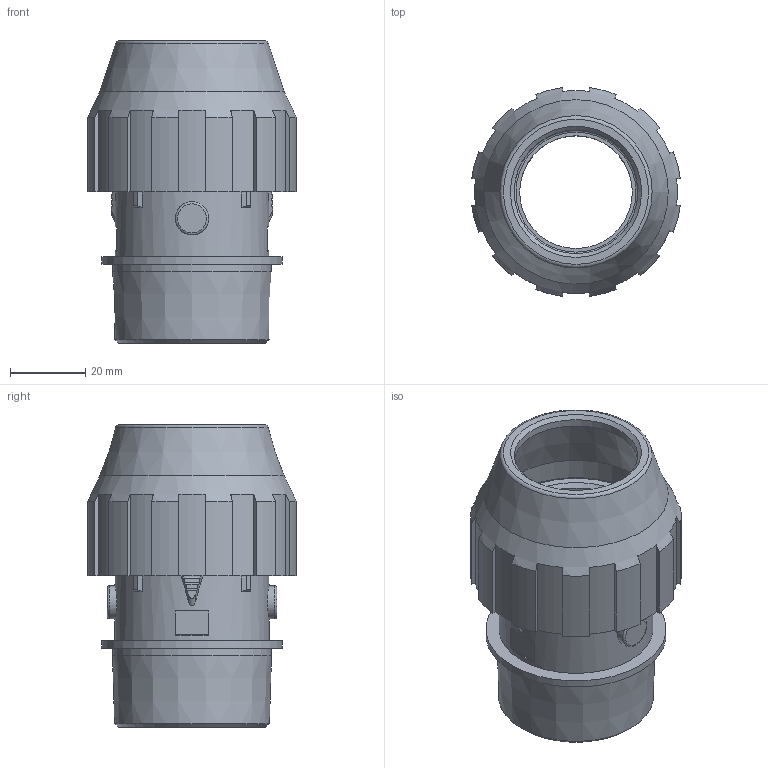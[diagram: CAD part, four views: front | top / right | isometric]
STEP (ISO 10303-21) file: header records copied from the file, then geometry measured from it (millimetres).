
FILE_DESCRIPTION( ( 'STEP AP214' ), '1' );
FILE_NAME( ' ', ' ', ( ' ' ), ( ' ' ), 'PSStep 11.0', 'VISI 17.0', ' ' );
FILE_SCHEMA( ( 'AUTOMOTIVE_DESIGN { 1 0 10303 214 1 1 1 1 }' ) );
Length unit declared in the file: millimetre
Products named in the file (6): 1; 2; 3; 4; 5; 6
Bounding box: 55.52 x 55.52 x 80.6 mm (x, y, z)
Volume: 59389.5 mm3; surface area: 43736 mm2
Topology: 6 solids, 6 shells, 184 faces, 462 edges, 302 vertices
Faces by surface type: plane 84, cylinder 69, cone 12, torus 11, bspline 8
Full cylindrical faces by diameter (mm): 8.842 x2, 30 x1, 32.9 x2, 38 x1, 41 x1, 42.31 x1, 44 x1, 46 x1, 48 x1, 50 x2
Entity records: 8472 total; most frequent: CARTESIAN_POINT 2608, DIRECTION 948, ORIENTED_EDGE 832, EDGE_CURVE 416, AXIS2_PLACEMENT_3D 384, VERTEX_POINT 288, EDGE_LOOP 236, FACE_OUTER_BOUND 204
